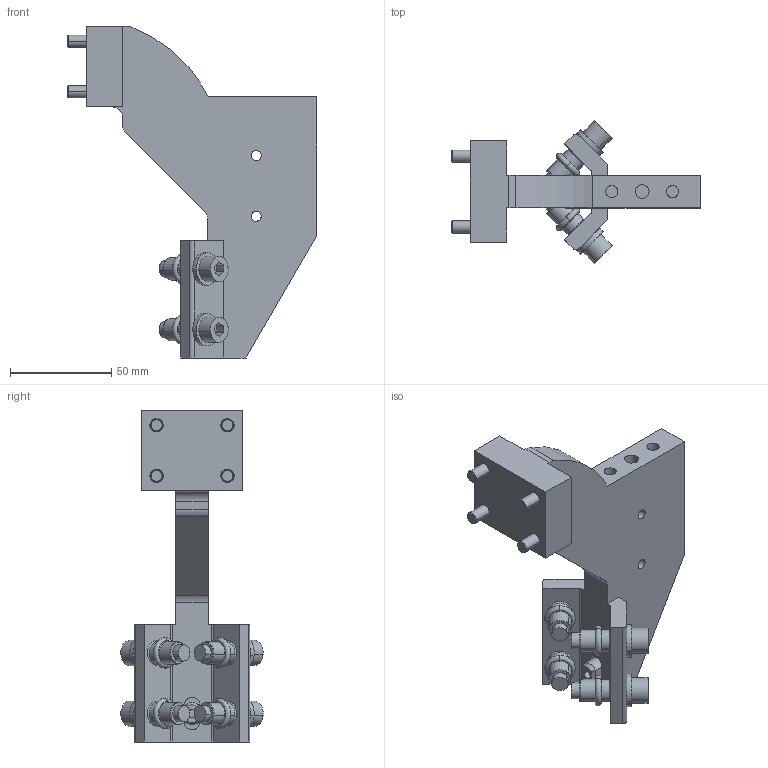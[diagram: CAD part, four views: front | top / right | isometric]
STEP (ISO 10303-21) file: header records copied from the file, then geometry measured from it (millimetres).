
FILE_DESCRIPTION(('CATIA V5 STEP Exchange','CAx-IF Rec.Pracs.--- Model Styling and Organization---1.2---2011-12-15'),'2;1');
FILE_NAME('\\SVARKONVERT2\Konvert\CatiaV5-Step_out\EGT274_1698083_ANBINDUNG_SPANNER_40_SW50_SENKR.stp','2015-10-29T15:07:43+00:00',('none'),('none'),'CATIA Version 5-6 Release 2014 SP1 HF51','CATIA V5 STEP AP214','none');
FILE_SCHEMA(('AUTOMOTIVE_DESIGN { 1 0 10303 214 1 1 1 1 }'));
Length unit declared in the file: millimetre
Products named in the file (1): EGT274_1698083_ANBINDUNG_SPANNER_40_SW50_SENKR
Bounding box: 123.4 x 70.36 x 164 mm (x, y, z)
Volume: 198749.4 mm3; surface area: 53675.9 mm2
Topology: 1 solids, 5 shells, 323 faces, 858 edges, 599 vertices
Faces by surface type: cylinder 149, plane 132, cone 34, torus 8
Entity records: 12129 total; most frequent: CARTESIAN_POINT 5439, ORIENTED_EDGE 1716, EDGE_CURVE 858, B_SPLINE_CURVE_WITH_KNOTS 740, DIRECTION 646, VERTEX_POINT 599, EDGE_LOOP 391, AXIS2_PLACEMENT_3D 324
